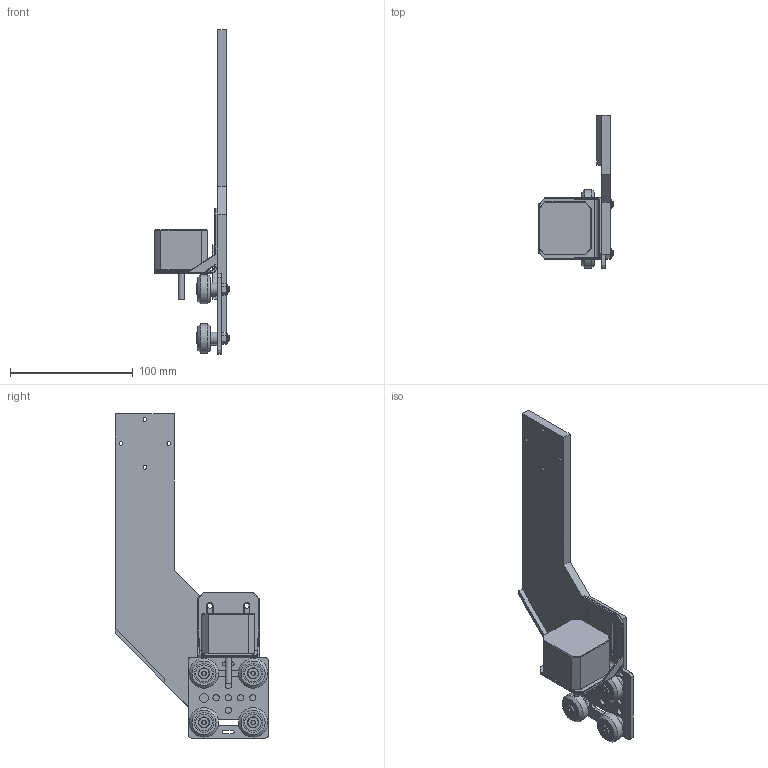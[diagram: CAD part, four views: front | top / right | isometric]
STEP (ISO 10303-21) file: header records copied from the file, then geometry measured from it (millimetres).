
FILE_DESCRIPTION(/* description */ ('STEP AP242 Edition 2','CAx-IF Rec.Pracs.---Representation and Presentation of Product Manufacturing Information (PMI)---4.0---2014-10-13','CAx-IF Rec.Pracs.---3D Tessellated Geometry---0.4---2014-09-14','2;1','CAx-IF Rec.Pracs.---User Defined Attributes---1.5---2016-08-15'),/* implementation_level */ '2;1');
FILE_NAME(/* name */ 'Left Y-Axis Assembly',/* time_stamp */ '2025-11-29T19:53:29Z',/* author */ (''),/* organization */ (''),/* preprocessor_version */ 'ST-DEVELOPER v20',/* originating_system */ 'ONSHAPE BY PTC INC, 1.207',/* authorisation */ ' ');
FILE_SCHEMA (('AP242_MANAGED_MODEL_BASED_3D_ENGINEERING_MIM_LF { 1 0 10303 442 3 1 4 }'));
Length unit declared in the file: metre
Products named in the file (14): Left Y-Axis Assembly; Part 1; Stepper Motor <1>; shaft; stepper_bracket; Gantry <1>; Eccentric Spacer 6mm v1; Ball Bearing 5 x 16 x 5 v1; Xtreme Solid V Wheel v1; Precision Shim 8 x 5 x 1 v1; Low Profile Screw M5 v1; Nylon Insert Lock Nut M5 v1; Aluminum Spacer 6mm v1; V-Slot Gantry Plate 20mm v1
Assembly tree (34 placements, depth 3):
  Left Y-Axis Assembly
    Part 1
    Stepper Motor <1>
      shaft
    stepper_bracket
    Gantry <1>
      Eccentric Spacer 6mm v1  x2
      Ball Bearing 5 x 16 x 5 v1  x8
      Xtreme Solid V Wheel v1  x4
      Precision Shim 8 x 5 x 1 v1  x4
      Low Profile Screw M5 v1  x4
      Nylon Insert Lock Nut M5 v1  x4
      Aluminum Spacer 6mm v1  x2
      V-Slot Gantry Plate 20mm v1
Bounding box: 60.63 x 124.68 x 263.89 mm (x, y, z)
Volume: 206648.2 mm3; surface area: 85332.5 mm2
Topology: 32 solids, 32 shells, 647 faces, 1382 edges, 852 vertices
Faces by surface type: plane 279, cylinder 212, cone 102, torus 38, sphere 16
Full cylindrical faces by diameter (mm): 1.8 x1, 2.075 x4, 3 x4, 3.5 x4, 4.2 x4, 4.25 x4, 5 x23, 5.1 x18, 5.3 x4, 7.11 x2, 7.2 x3, 8 x4, 8.6 x16, 9.4 x1, 10 x2, 13.6 x16, 14 x4, 16 x16, 22 x1, 22.1 x1, 23.9 x4
Entity records: 10649 total; most frequent: DIRECTION 1856, CARTESIAN_POINT 1814, ORIENTED_EDGE 1530, EDGE_CURVE 765, AXIS2_PLACEMENT_3D 746, EDGE_LOOP 575, FACE_BOUND 575, VERTEX_POINT 520
